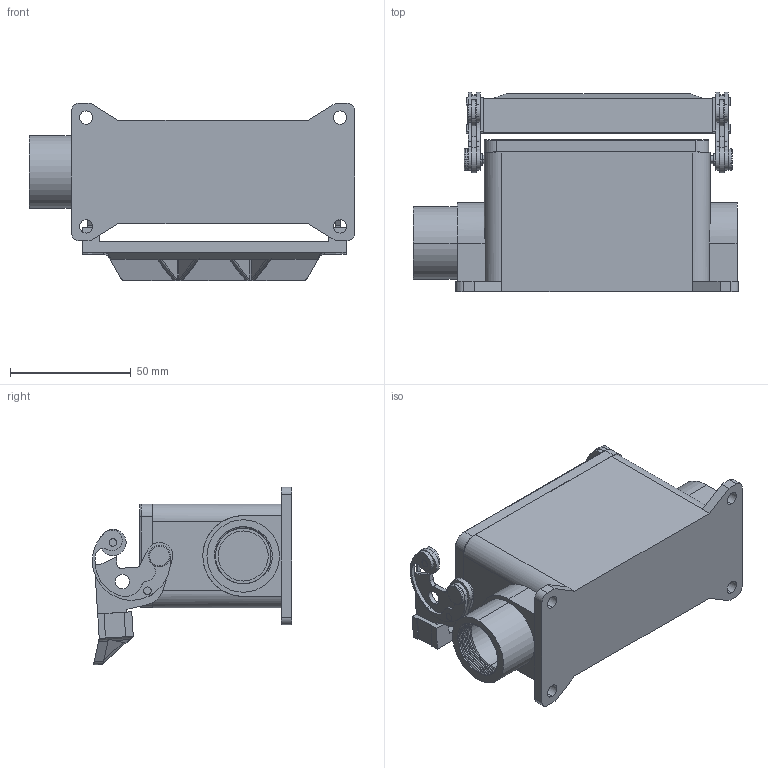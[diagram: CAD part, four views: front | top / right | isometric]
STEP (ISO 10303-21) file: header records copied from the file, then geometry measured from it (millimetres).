
FILE_DESCRIPTION (( 'STEP AP214' ), '1' );
FILE_NAME ('CHPT-16.5L.STEP', '2010-02-16T13:38:46', ( ' ' ), ( '' ), 'SwSTEP 2.0', 'SolidWorks 2009', '' );
FILE_SCHEMA (( 'AUTOMOTIVE_DESIGN' ));
Length unit declared in the file: inch
Products named in the file (1): CHPT-16.5L
Bounding box: 134.45 x 82.35 x 73.56 mm (x, y, z)
Volume: 126654.4 mm3; surface area: 66906.3 mm2
Topology: 19 solids, 19 shells, 471 faces, 1193 edges, 782 vertices
Faces by surface type: cylinder 251, plane 192, torus 22, bspline 6
Entity records: 23418 total; most frequent: CARTESIAN_POINT 5356, DIRECTION 2519, ORIENTED_EDGE 2386, EDGE_CURVE 1193, AXIS2_PLACEMENT_3D 948, VERTEX_POINT 782, LINE 623, VECTOR 623
